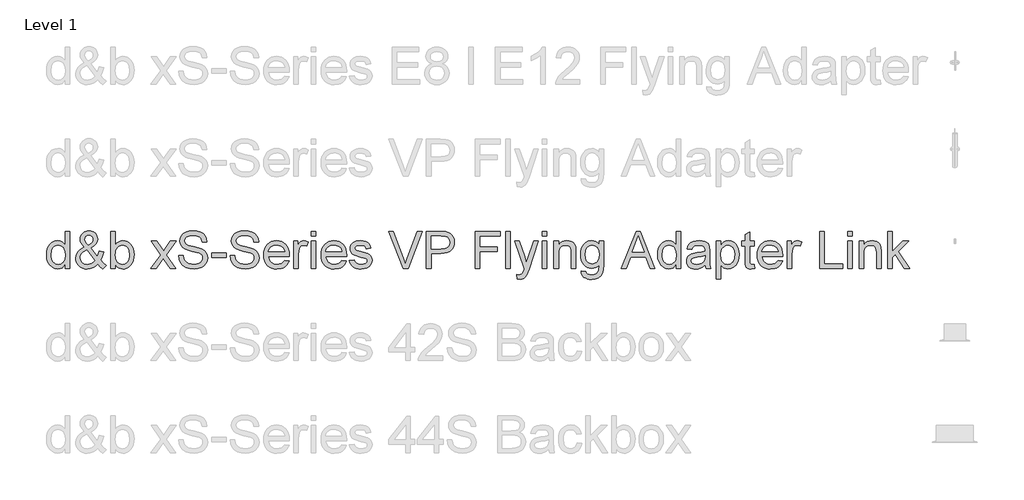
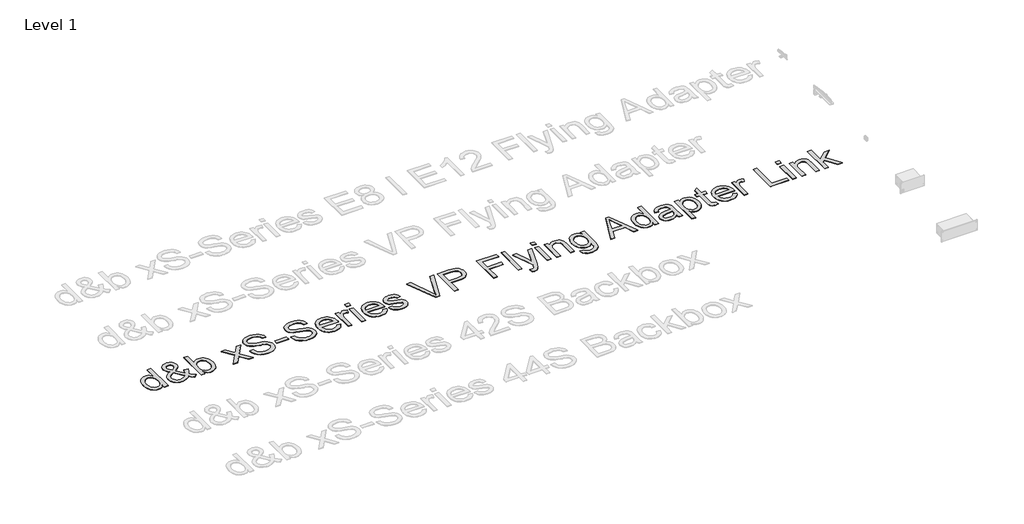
# One storey, part 10 of 55: 1 proxy.
"""IFC4 building model written with IfcOpenShell, lengths in millimetres."""

from ifc_helpers import new_model, si_unit, origin, origin_with_axes, place, context, project, spatial, polyline, outline, extrude, element, save

model = new_model("IFC4")

# Units and contexts
model_context = context("Model", 3, world=origin())
ifc_project = project(units=[si_unit("LENGTHUNIT", "METRE", prefix="MILLI")], contexts=[model_context])

# Site, building, storey
site = spatial("IfcSite", under=ifc_project)
building = spatial("IfcBuilding", under=site)
storey = spatial("IfcBuildingStorey", under=building, Name="Level 1", Elevation=0.0)

# Proxy
placement = place(None, origin())
element("IfcBuildingElementProxy", 1, Name="400mm Arial", ObjectType="400mm Arial", at=placement, inside=storey, context=model_context, shape_type="SweptSolid", body=[
    extrude(outline(polyline([(-20879.8211974, -29148.6945164), (-20879.8211974, -29101.3113154), (-20894.8491769, -29124.7883181), (-20913.0532043, -29141.5576057), (-20934.4332796, -29151.6191783), (-20958.9894028, -29154.9730358), (-20991.4611202, -29150.1169935), (-21021.1859854, -29135.5488665), (-21046.3491139, -29112.2864616), (-21065.1356211, -29081.3475858), (-21076.8342686, -29043.9830379), (-21080.7338177, -29001.4436165), (-21077.1408369, -28959.4314926), (-21066.3618945, -28921.4905962), (-21048.4092531, -28889.7791682), (-21023.2951755, -28866.4554497), (-20992.9203855, -28852.1080519), (-20959.1856065, -28847.325586), (-20934.6110892, -28850.7468885), (-20912.8815261, -28861.0107962), (-20894.4629008, -28876.7438829), (-20879.8211974, -28896.5727224), (-20879.8211974, -28746.8692758), (-20829.5930424, -28746.8692758), (-20829.5930424, -29148.6945164), (-20879.8211974, -29148.6945164)]), holes=[polyline([(-21030.5056627, -29001.2474128), (-21029.089317, -29025.6042665), (-21024.8402799, -29046.6808392), (-21017.7585515, -29064.4771307), (-21007.8441318, -29078.9931411), (-20983.1469871, -29098.3069458), (-20969.2717046, -29103.135397), (-20954.3786151, -29104.7448807), (-20939.415015, -29103.2089734), (-20925.6225058, -29098.6012514), (-20901.5507606, -29080.1703635), (-20892.0440767, -29066.2613584), (-20885.2535882, -29049.1088603), (-20879.8211974, -29005.0733855), (-20885.3516901, -28956.9298951), (-20892.2648059, -28938.3947739), (-20901.9431681, -28923.5507354), (-20913.6448812, -28912.1770504), (-20926.6280499, -28904.0529896), (-20940.8926743, -28899.1785532), (-20956.4387543, -28897.5537411), (-20971.6261493, -28899.1141738), (-20985.5014319, -28903.7954722), (-20998.064602, -28911.5976362), (-21009.3156597, -28922.5206658), (-21018.586286, -28936.8036843), (-21025.2081619, -28954.6858149), (-21030.5056627, -29001.2474128)])]), origin_with_axes(), (0.0, 0.0, 1.0), 5.0),
    extrude(outline(polyline([(-20523.809528, -29099.0549725), (-20549.3405384, -29123.5191252), (-20577.0788409, -29140.99352), (-20607.0734862, -29151.4781569), (-20639.3735254, -29154.9730358), (-20668.6814577, -29152.3855991), (-20694.8010793, -29144.623289), (-20717.7323904, -29131.6861055), (-20737.4753908, -29113.5740486), (-20750.308341, -29096.2038871), (-20759.4747341, -29077.8404442), (-20764.9745699, -29058.4837198), (-20766.8078485, -29038.1337141), (-20760.9094739, -29002.9396699), (-20743.2143499, -28971.3263438), (-20713.796053, -28943.3182613), (-20672.7281596, -28918.9399477), (-20694.6416638, -28890.5885086), (-20707.7995765, -28868.1231814), (-20714.3846642, -28848.9442668), (-20716.5796934, -28830.4520651), (-20714.8506481, -28812.8979626), (-20709.6635119, -28796.5333452), (-20701.018285, -28781.3582129), (-20688.9149674, -28767.3725657), (-20674.1935562, -28755.6555241), (-20657.6940487, -28747.2862088), (-20639.4164449, -28742.2646195), (-20619.3607448, -28740.5907564), (-20600.212487, -28742.1910431), (-20582.8913764, -28746.9919032), (-20567.397413, -28754.9933366), (-20553.7305969, -28766.1953433), (-20542.5715097, -28779.6414302), (-20534.6007332, -28794.3751041), (-20529.8182672, -28810.396365), (-20528.2241119, -28827.7052129), (-20532.9452642, -28855.68877), (-20547.108721, -28881.563137), (-20570.7144823, -28905.3283139), (-20603.7625482, -28926.9843007), (-20531.069066, -29017.5323224), (-20518.6837055, -28991.6579554), (-20509.3885538, -28961.9085647), (-20459.1603987, -28972.7978718), (-20474.6114425, -29019.3226815), (-20494.6732739, -29055.4977443), (-20466.1256311, -29088.8033276), (-20434.0463211, -29116.3209009), (-20471.7174374, -29154.9730358), (-20497.3465498, -29131.52669), (-20523.809528, -29099.0549725)]), holes=[polyline([(-20557.4584678, -29062.8553842), (-20647.1235727, -28950.9211558), (-20681.3733865, -28972.7733463), (-20702.305872, -28993.0068561), (-20713.0112381, -29012.3329235), (-20716.5796934, -29031.4627873), (-20711.6991256, -29055.1543878), (-20697.0574222, -29079.7289051), (-20686.2784798, -29090.6733944), (-20673.4639236, -29098.4908868), (-20658.6137537, -29103.1813823), (-20641.7279702, -29104.7448807), (-20619.0051256, -29101.8263502), (-20595.5710425, -29093.0707588), (-20574.1480476, -29079.6798541), (-20557.4584678, -29062.8553842)]), polyline([(-20629.1709314, -28895.2973981), (-20602.9041569, -28878.6323438), (-20587.8700461, -28864.1500559), (-20580.8067117, -28850.0601755), (-20578.452267, -28834.5723435), (-20581.5547385, -28817.0243723), (-20590.862153, -28803.0325938), (-20604.829406, -28793.8723321), (-20621.9113933, -28790.8189115), (-20639.3612626, -28793.8478066), (-20653.6473468, -28802.9344919), (-20663.1754905, -28816.3867102), (-20666.3515384, -28832.5122043), (-20662.0350563, -28850.9063041), (-20648.9875082, -28871.360543), (-20629.1709314, -28895.2973981)])]), origin_with_axes(), (0.0, 0.0, 1.0), 5.0),
    extrude(outline(polyline([(-20333.590011, -29148.6945164), (-20383.8181661, -29148.6945164), (-20383.8181661, -28746.8692758), (-20333.590011, -28746.8692758), (-20333.590011, -28895.8860093), (-20317.0721094, -28874.6408241), (-20298.4204923, -28859.4656918), (-20277.6351595, -28850.3606124), (-20254.7161112, -28847.325586), (-20228.8417442, -28850.0601755), (-20204.3898543, -28858.263944), (-20182.758393, -28871.4218567), (-20165.3453119, -28889.0188788), (-20151.6968898, -28910.883332), (-20141.3594058, -28936.8435381), (-20134.8478945, -28965.8203766), (-20132.6773907, -28996.734727), (-20134.9245365, -29032.4070178), (-20141.6659741, -29063.7873519), (-20152.9017034, -29090.8757295), (-20168.6317244, -29113.6721505), (-20187.5132678, -29131.7412878), (-20208.2035643, -29144.6478145), (-20230.702614, -29152.3917305), (-20255.0104168, -29154.9730358), (-20278.6836232, -29151.6437038), (-20299.671291, -29141.6557076), (-20317.9734203, -29125.0090473), (-20333.590011, -29101.7037229), (-20333.590011, -29148.6945164)]), holes=[polyline([(-20333.590011, -28999.0891717), (-20330.1564457, -29040.9786682), (-20319.8557498, -29069.3301073), (-20307.6849872, -29084.8240707), (-20293.5399244, -29095.8911874), (-20277.4205617, -29102.5314574), (-20259.3268989, -29104.7448807), (-20244.3050508, -29103.1139372), (-20230.3377977, -29098.2211067), (-20217.4251396, -29090.0663891), (-20205.5670767, -29078.6497845), (-20195.6526569, -29064.0019498), (-20188.5709285, -29046.1535416), (-20184.3218914, -29025.1045601), (-20182.9055458, -29000.8550053), (-20188.3379366, -28954.8942814), (-20195.1284251, -28937.1010555), (-20204.6351089, -28922.7659205), (-20216.0670419, -28911.735592), (-20228.6332778, -28903.8567859), (-20242.3338164, -28899.1295023), (-20257.1686579, -28897.5537411), (-20272.190506, -28899.1846846), (-20286.1577591, -28904.0775151), (-20299.0704171, -28912.2322327), (-20310.9284801, -28923.6488372), (-20320.8428999, -28938.1495192), (-20327.9246283, -28955.556469), (-20332.1736653, -28975.8696865), (-20333.590011, -28999.0891717)])]), origin_with_axes(), (0.0, 0.0, 1.0), 5.0),
    extrude(outline(polyline([(-19950.6003285, -29148.6945164), (-19843.2768878, -29000.2663941), (-19944.3218092, -28853.6041054), (-19884.0872638, -28853.6041054), (-19835.3306367, -28924.3355503), (-19812.4729021, -28957.5920827), (-19792.6563253, -28930.3197641), (-19737.1306695, -28853.6041054), (-19676.6999204, -28853.6041054), (-19782.8461387, -29000.364496), (-19680.623995, -29148.6945164), (-19740.9566422, -29148.6945164), (-19802.5646137, -29059.4218189), (-19813.7482263, -29043.0388074), (-19890.1695795, -29148.6945164), (-19950.6003285, -29148.6945164)])), origin_with_axes(), (0.0, 0.0, 1.0), 5.0),
    extrude(outline(polyline([(-19649.2313981, -29010.56709), (-19599.003243, -29010.56709), (-19593.2397584, -29038.4402825), (-19582.8164352, -29060.844296), (-19566.556051, -29078.6252591), (-19543.2813835, -29092.6293004), (-19514.8318425, -29101.7159856), (-19483.0468381, -29104.7448807), (-19455.063281, -29102.4517496), (-19430.5623402, -29095.5723563), (-19410.7089752, -29084.6830493), (-19396.6681457, -29070.3601769), (-19388.3172244, -29053.9158517), (-19385.533584, -29036.6621862), (-19387.6182486, -29019.849979), (-19393.8722425, -29005.3186402), (-19406.5764341, -28992.9210169), (-19428.0116917, -28982.5099565), (-19501.1466323, -28963.3310418), (-19549.1552327, -28950.639113), (-19579.8733793, -28938.5603208), (-19604.8770922, -28921.6622745), (-19622.5967416, -28901.1835101), (-19633.1549549, -28877.565486), (-19636.6743593, -28851.2496606), (-19632.3210891, -28821.8313637), (-19619.2612782, -28794.3996296), (-19597.8382834, -28771.1494875), (-19568.395461, -28754.2759667), (-19533.054264, -28744.012059), (-19493.9361452, -28740.5907564), (-19451.5561394, -28744.1714745), (-19414.4736342, -28754.9136288), (-19384.013005, -28772.59649), (-19361.4986269, -28796.999329), (-19347.249331, -28826.6015669), (-19341.5839483, -28859.8826247), (-19391.8121033, -28859.8826247), (-19401.0336787, -28829.9125049), (-19409.3968627, -28818.0544419), (-19420.2616443, -28808.2810436), (-19450.3053406, -28795.1844445), (-19491.9741079, -28790.8189115), (-19534.6238939, -28795.1353936), (-19550.9271976, -28800.5309962), (-19563.8827752, -28808.0848398), (-19580.805347, -28827.1411272), (-19586.4462043, -28849.7781326), (-19582.4485532, -28869.0796746), (-19570.4556002, -28884.6042948), (-19542.1041611, -28898.4857088), (-19488.4424407, -28912.6614283), (-19433.0639377, -28926.1259093), (-19399.5621507, -28937.8736077), (-19370.9286687, -28956.0960292), (-19350.9526764, -28978.5858819), (-19339.2172408, -29005.097911), (-19335.3054289, -29035.3868619), (-19339.805852, -29066.3502632), (-19353.3071212, -29095.4742545), (-19375.2574136, -29120.5392811), (-19405.1049061, -29139.3257883), (-19440.9979261, -29151.0612239), (-19481.0848008, -29154.9730358), (-19530.2951491, -29150.7546556), (-19570.7989567, -29138.099515), (-19603.0622077, -29116.958563), (-19627.5508858, -29087.2827487), (-19643.2717098, -29051.1322113), (-19649.2313981, -29010.56709)])), origin_with_axes(), (0.0, 0.0, 1.0), 5.0),
    extrude(outline(polyline([(-19291.3557932, -29029.4026481), (-19291.3557932, -28979.174493), (-19134.3928086, -28979.174493), (-19134.3928086, -29029.4026481), (-19291.3557932, -29029.4026481)])), origin_with_axes(), (0.0, 0.0, 1.0), 5.0),
    extrude(outline(polyline([(-19090.4431729, -29010.56709), (-19040.2150178, -29010.56709), (-19034.4515332, -29038.4402825), (-19024.02821, -29060.844296), (-19007.7678258, -29078.6252591), (-18984.4931583, -29092.6293004), (-18956.0436173, -29101.7159856), (-18924.2586129, -29104.7448807), (-18896.2750558, -29102.4517496), (-18871.774115, -29095.5723563), (-18851.9207499, -29084.6830493), (-18837.8799205, -29070.3601769), (-18829.5289992, -29053.9158517), (-18826.7453587, -29036.6621862), (-18828.8300234, -29019.849979), (-18835.0840173, -29005.3186402), (-18847.7882089, -28992.9210169), (-18869.2234665, -28982.5099565), (-18942.3584071, -28963.3310418), (-18990.3670075, -28950.639113), (-19021.0851541, -28938.5603208), (-19046.088867, -28921.6622745), (-19063.8085164, -28901.1835101), (-19074.3667297, -28877.565486), (-19077.8861341, -28851.2496606), (-19073.5328638, -28821.8313637), (-19060.473053, -28794.3996296), (-19039.0500582, -28771.1494875), (-19009.6072358, -28754.2759667), (-18974.2660388, -28744.012059), (-18935.14792, -28740.5907564), (-18892.7679141, -28744.1714745), (-18855.685409, -28754.9136288), (-18825.2247798, -28772.59649), (-18802.7104017, -28796.999329), (-18788.4611058, -28826.6015669), (-18782.7957231, -28859.8826247), (-18833.0238781, -28859.8826247), (-18842.2454535, -28829.9125049), (-18850.6086375, -28818.0544419), (-18861.4734191, -28808.2810436), (-18891.5171154, -28795.1844445), (-18933.1858827, -28790.8189115), (-18975.8356687, -28795.1353936), (-18992.1389724, -28800.5309962), (-19005.09455, -28808.0848398), (-19022.0171218, -28827.1411272), (-19027.657979, -28849.7781326), (-19023.660328, -28869.0796746), (-19011.667375, -28884.6042948), (-18983.3159359, -28898.4857088), (-18929.6542155, -28912.6614283), (-18874.2757125, -28926.1259093), (-18840.7739255, -28937.8736077), (-18812.1404435, -28956.0960292), (-18792.1644512, -28978.5858819), (-18780.4290156, -29005.097911), (-18776.5172037, -29035.3868619), (-18781.0176267, -29066.3502632), (-18794.518896, -29095.4742545), (-18816.4691883, -29120.5392811), (-18846.3166809, -29139.3257883), (-18882.2097009, -29151.0612239), (-18922.2965756, -29154.9730358), (-18971.5069238, -29150.7546556), (-19012.0107315, -29138.099515), (-19044.2739825, -29116.958563), (-19068.7626606, -29087.2827487), (-19084.4834846, -29051.1322113), (-19090.4431729, -29010.56709)])), origin_with_axes(), (0.0, 0.0, 1.0), 5.0),
    extrude(outline(polyline([(-18500.850962, -29060.795245), (-18451.6038255, -29067.0737644), (-18459.1546035, -29086.7983707), (-18469.3480004, -29104.180795), (-18482.1840164, -29119.2210372), (-18497.6626513, -29131.9190974), (-18515.6244897, -29142.0051955), (-18535.9101161, -29149.2095512), (-18583.4527326, -29154.9730358), (-18614.618469, -29152.4867667), (-18642.3874282, -29145.0279592), (-18666.7596104, -29132.5966135), (-18687.7350155, -29115.1927294), (-18704.602405, -29093.300685), (-18716.6505403, -29067.4048582), (-18723.8794215, -29037.5052491), (-18726.2890486, -29003.6018575), (-18723.8548961, -28968.5488348), (-18716.5524385, -28937.6528785), (-18704.3816758, -28910.9139888), (-18687.342608, -28888.3321657), (-18666.4223852, -28870.3917871), (-18642.6081574, -28857.5772309), (-18615.8999246, -28849.8884972), (-18586.2976867, -28847.325586), (-18557.6488763, -28849.8823658), (-18531.7407868, -28857.5527054), (-18508.5734182, -28870.3366048), (-18488.1467704, -28888.2340638), (-18471.472519, -28910.766836), (-18459.5623394, -28937.4566748), (-18452.4162316, -28968.3035801), (-18450.0341957, -29003.3075519), (-18450.3285013, -29016.8456094), (-18676.0608935, -29016.8456094), (-18673.1515601, -29036.8890467), (-18667.3666157, -29054.4431493), (-18658.7060604, -29069.507917), (-18647.1698942, -29082.0833498), (-18633.3957791, -29091.9977696), (-18618.0213774, -29099.079498), (-18582.4717139, -29104.7448807), (-18555.7389556, -29102.1206558), (-18533.2245775, -29094.2479811), (-18514.9285796, -29080.6363473), (-18500.850962, -29060.795245)]), holes=[polyline([(-18676.0608935, -28966.6174543), (-18500.2623508, -28966.6174543), (-18507.0559049, -28940.0808997), (-18520.3732332, -28921.0981887), (-18534.0707061, -28910.7974929), (-18549.65664, -28903.439853), (-18567.1310348, -28899.025269), (-18586.4938904, -28897.5537411), (-18620.3512967, -28902.2503679), (-18648.3471166, -28916.3402483), (-18667.8080741, -28938.3028034), (-18676.0608935, -28966.6174543)])]), origin_with_axes(), (0.0, 0.0, 1.0), 5.0),
    extrude(outline(polyline([(-18399.8060406, -29148.6945164), (-18399.8060406, -28853.6041054), (-18355.8564049, -28853.6041054), (-18355.8564049, -28897.2594355), (-18339.6205462, -28871.9491542), (-18324.6600117, -28857.0376707), (-18309.6504263, -28849.7536071), (-18293.2674148, -28847.325586), (-18268.2514391, -28851.2006097), (-18242.843056, -28862.8256807), (-18259.618475, -28907.8544369), (-18277.2768108, -28900.128915), (-18294.9351465, -28897.5537411), (-18309.9324692, -28900.0308132), (-18323.3356365, -28907.4620295), (-18334.1636299, -28919.2833042), (-18341.4354307, -28934.9305518), (-18347.5422718, -28962.9876853), (-18349.5778855, -28993.5954673), (-18349.5778855, -29148.6945164), (-18399.8060406, -29148.6945164)])), origin_with_axes(), (0.0, 0.0, 1.0), 5.0),
    extrude(outline(polyline([(-18211.4504591, -28797.0974309), (-18211.4504591, -28746.8692758), (-18161.222304, -28746.8692758), (-18161.222304, -28797.0974309), (-18211.4504591, -28797.0974309)])), origin_with_axes(), (0.0, 0.0, 1.0), 5.0),
    extrude(outline(polyline([(-18211.4504591, -29148.6945164), (-18211.4504591, -28853.6041054), (-18161.222304, -28853.6041054), (-18161.222304, -29148.6945164), (-18211.4504591, -29148.6945164)])), origin_with_axes(), (0.0, 0.0, 1.0), 5.0),
    extrude(outline(polyline([(-17879.2775429, -29060.795245), (-17830.0304065, -29067.0737644), (-17837.5811844, -29086.7983707), (-17847.7745814, -29104.180795), (-17860.6105973, -29119.2210372), (-17876.0892323, -29131.9190974), (-17894.0510707, -29142.0051955), (-17914.336697, -29149.2095512), (-17961.8793136, -29154.9730358), (-17993.0450499, -29152.4867667), (-18020.8140092, -29145.0279592), (-18045.1861914, -29132.5966135), (-18066.1615965, -29115.1927294), (-18083.0289859, -29093.300685), (-18095.0771213, -29067.4048582), (-18102.3060025, -29037.5052491), (-18104.7156295, -29003.6018575), (-18102.281477, -28968.5488348), (-18094.9790194, -28937.6528785), (-18082.8082567, -28910.9139888), (-18065.769189, -28888.3321657), (-18044.8489662, -28870.3917871), (-18021.0347384, -28857.5772309), (-17994.3265055, -28849.8884972), (-17964.7242676, -28847.325586), (-17936.0754573, -28849.8823658), (-17910.1673678, -28857.5527054), (-17886.9999991, -28870.3366048), (-17866.5733513, -28888.2340638), (-17849.8990999, -28910.766836), (-17837.9889203, -28937.4566748), (-17830.8428126, -28968.3035801), (-17828.4607766, -29003.3075519), (-17828.7550822, -29016.8456094), (-18054.4874745, -29016.8456094), (-18051.578141, -29036.8890467), (-18045.7931967, -29054.4431493), (-18037.1326413, -29069.507917), (-18025.5964751, -29082.0833498), (-18011.8223601, -29091.9977696), (-17996.4479584, -29099.079498), (-17960.8982949, -29104.7448807), (-17934.1655366, -29102.1206558), (-17911.6511585, -29094.2479811), (-17893.3551606, -29080.6363473), (-17879.2775429, -29060.795245)]), holes=[polyline([(-18054.4874745, -28966.6174543), (-17878.6889317, -28966.6174543), (-17885.4824859, -28940.0808997), (-17898.7998141, -28921.0981887), (-17912.4972871, -28910.7974929), (-17928.0832209, -28903.439853), (-17945.5576157, -28899.025269), (-17964.9204714, -28897.5537411), (-17998.7778777, -28902.2503679), (-18026.7736975, -28916.3402483), (-18046.234655, -28938.3028034), (-18054.4874745, -28966.6174543)])]), origin_with_axes(), (0.0, 0.0, 1.0), 5.0),
    extrude(outline(polyline([(-17797.0681797, -29060.795245), (-17746.8400246, -29054.5167257), (-17738.918299, -29076.0010342), (-17723.5898825, -29091.7954345), (-17700.7566734, -29101.5075192), (-17670.3205696, -29104.7448807), (-17640.2523479, -29101.7772993), (-17619.1113959, -29092.874555), (-17606.6034081, -29079.9741597), (-17602.4340788, -29065.0136253), (-17606.6279335, -29052.2113318), (-17619.2094978, -29042.4501962), (-17670.9091808, -29028.1273239), (-17746.545719, -29003.5528066), (-17765.6878455, -28991.2042343), (-17779.5569967, -28974.858011), (-17787.9814944, -28955.556469), (-17790.7896603, -28934.3419406), (-17788.5333174, -28914.880983), (-17781.7642887, -28896.9160789), (-17771.0957109, -28881.1584668), (-17757.1407205, -28868.3193852), (-17725.2085633, -28853.4569526), (-17704.3251287, -28848.8584276), (-17681.9946916, -28847.325586), (-17649.302245, -28849.7903953), (-17620.8772295, -28857.1848234), (-17598.0194949, -28868.785369), (-17582.0288908, -28883.8685308), (-17571.4338893, -28903.5502176), (-17564.7629625, -28928.946338), (-17614.9911176, -28935.2248574), (-17621.3309506, -28919.4181943), (-17633.8757267, -28907.5110804), (-17652.748073, -28900.0430759), (-17678.070617, -28897.5537411), (-17706.9125654, -28899.9327113), (-17726.140531, -28907.069622), (-17736.9562617, -28917.3703179), (-17740.5615053, -28929.2406436), (-17734.5772915, -28943.8578215), (-17715.8398352, -28954.9433323), (-17672.5769125, -28965.6364356), (-17598.8533607, -28989.2789852), (-17579.3801404, -29000.5852252), (-17564.6158097, -29016.0607944), (-17555.3083952, -29035.7547439), (-17552.2059237, -29059.7161245), (-17555.8479555, -29084.4868455), (-17566.7740507, -29107.7860386), (-17584.5672766, -29127.7865564), (-17608.8107, -29142.6612517), (-17638.0941069, -29151.8950898), (-17671.0072827, -29154.9730358), (-17698.040478, -29153.4892451), (-17721.6523707, -29149.037873), (-17741.8429609, -29141.6189194), (-17758.6122485, -29131.2323844), (-17772.3097214, -29117.9273189), (-17783.2848676, -29101.7527738), (-17791.5376871, -29082.7087492), (-17797.0681797, -29060.795245)])), origin_with_axes(), (0.0, 0.0, 1.0), 5.0),
    extrude(outline(polyline([(-17213.85259, -29148.6945164), (-17373.6605287, -28746.8692758), (-17319.9007065, -28746.8692758), (-17212.8715714, -29036.3678806), (-17191.1910591, -29101.605621), (-17169.8048525, -29036.3678806), (-17062.4814117, -28746.8692758), (-17008.8196914, -28746.8692758), (-17162.0548051, -29148.6945164), (-17213.85259, -29148.6945164)])), origin_with_axes(), (0.0, 0.0, 1.0), 5.0),
    extrude(outline(polyline([(-16962.0251016, -29148.6945164), (-16962.0251016, -28746.8692758), (-16813.1064699, -28746.8692758), (-16753.0681283, -28750.6952486), (-16726.2985818, -28757.844422), (-16704.2624503, -28769.4817558), (-16686.5182754, -28786.1345474), (-16672.6245987, -28808.3300945), (-16663.648278, -28834.5110298), (-16660.6561711, -28863.1199863), (-16662.6764564, -28887.7864741), (-16668.7373123, -28910.4786618), (-16678.8387388, -28931.1965495), (-16692.9807358, -28949.9401372), (-16712.3957081, -28965.4770201), (-16738.3160603, -28976.5747936), (-16770.7417925, -28983.2334577), (-16809.6729047, -28985.4530124), (-16911.7969465, -28985.4530124), (-16911.7969465, -29148.6945164), (-16962.0251016, -29148.6945164)]), holes=[polyline([(-16911.7969465, -28935.2248574), (-16806.7298487, -28935.2248574), (-16762.1916018, -28930.6140697), (-16745.5878611, -28924.8505851), (-16732.7610422, -28916.7817067), (-16723.189979, -28906.6220322), (-16716.3535052, -28894.5861596), (-16710.8843262, -28864.8858199), (-16714.109425, -28842.3223908), (-16723.7847215, -28823.290629), (-16738.7084678, -28808.9677566), (-16757.678916, -28800.5309962), (-16807.9070711, -28797.0974309), (-16911.7969465, -28797.0974309), (-16911.7969465, -28935.2248574)])]), origin_with_axes(), (0.0, 0.0, 1.0), 5.0),
    extrude(outline(polyline([(-16434.6294733, -29148.6945164), (-16434.6294733, -28746.8692758), (-16164.6531398, -28746.8692758), (-16164.6531398, -28797.0974309), (-16384.4013182, -28797.0974309), (-16384.4013182, -28916.3892992), (-16196.0457367, -28916.3892992), (-16196.0457367, -28966.6174543), (-16384.4013182, -28966.6174543), (-16384.4013182, -29148.6945164), (-16434.6294733, -29148.6945164)])), origin_with_axes(), (0.0, 0.0, 1.0), 5.0),
    extrude(outline(polyline([(-16101.8679459, -29148.6945164), (-16101.8679459, -28746.8692758), (-16051.6397909, -28746.8692758), (-16051.6397909, -29148.6945164), (-16101.8679459, -29148.6945164)])), origin_with_axes(), (0.0, 0.0, 1.0), 5.0),
    extrude(outline(polyline([(-15976.2975583, -29261.7078653), (-15982.5760776, -29213.3436457), (-15957.0695926, -29217.7582297), (-15943.6541625, -29216.3725408), (-15933.2308393, -29212.2154743), (-15918.6136614, -29196.7644305), (-15904.8794003, -29159.7800272), (-15900.9553256, -29147.6153959), (-16007.6901552, -28853.6041054), (-15954.8132497, -28853.6041054), (-15898.1103715, -29017.5323224), (-15878.3918966, -29083.0643685), (-15858.6734217, -29025.086166), (-15800.4990155, -28853.6041054), (-15748.0145175, -28853.6041054), (-15850.7271706, -29155.7578507), (-15877.4108779, -29221.2898968), (-15891.0715627, -29242.2101196), (-15906.547132, -29256.7046702), (-15924.4997733, -29265.1659561), (-15945.5916744, -29267.9863847), (-15976.2975583, -29261.7078653)])), origin_with_axes(), (0.0, 0.0, 1.0), 5.0),
    extrude(outline(polyline([(-15706.3212247, -28797.0974309), (-15706.3212247, -28746.8692758), (-15656.0930696, -28746.8692758), (-15656.0930696, -28797.0974309), (-15706.3212247, -28797.0974309)])), origin_with_axes(), (0.0, 0.0, 1.0), 5.0),
    extrude(outline(polyline([(-15706.3212247, -29148.6945164), (-15706.3212247, -28853.6041054), (-15656.0930696, -28853.6041054), (-15656.0930696, -29148.6945164), (-15706.3212247, -29148.6945164)])), origin_with_axes(), (0.0, 0.0, 1.0), 5.0),
    extrude(outline(polyline([(-15580.750837, -29148.6945164), (-15580.750837, -28853.6041054), (-15530.522682, -28853.6041054), (-15530.522682, -28894.8068888), (-15513.0728127, -28874.0338188), (-15492.1158017, -28859.1959117), (-15467.651649, -28850.2931674), (-15439.6803546, -28847.325586), (-15414.9218963, -28849.7168189), (-15392.2481027, -28856.8905179), (-15373.3389682, -28867.9515032), (-15359.8744871, -28882.0045954), (-15350.7387509, -28899.0130063), (-15344.8158508, -28918.9399477), (-15342.1671004, -28967.5003711), (-15342.1671004, -29148.6945164), (-15392.3952555, -29148.6945164), (-15392.3952555, -28974.2693998), (-15393.842258, -28948.2969309), (-15398.1832656, -28929.8292548), (-15406.1908303, -28916.5977657), (-15418.6375045, -28906.333858), (-15434.5913204, -28899.7487703), (-15453.1203102, -28897.5537411), (-15482.5386071, -28902.4833598), (-15507.6158964, -28917.272216), (-15517.6376151, -28929.3448768), (-15524.7959856, -28945.8443843), (-15529.0910079, -28966.7707384), (-15530.522682, -28992.1239393), (-15530.522682, -29148.6945164), (-15580.750837, -29148.6945164)])), origin_with_axes(), (0.0, 0.0, 1.0), 5.0),
    extrude(outline(polyline([(-15285.660426, -29173.808594), (-15235.4322709, -29180.0871133), (-15229.8895155, -29195.7834118), (-15219.1473612, -29206.574617), (-15198.0309347, -29214.9623265), (-15170.3907342, -29217.7582297), (-15140.9111236, -29214.5944445), (-15118.9853567, -29205.103089), (-15103.7795676, -29189.8972999), (-15094.4598903, -29169.5902138), (-15091.0263251, -29111.0234001), (-15107.7404304, -29127.5045135), (-15126.3920475, -29139.2767374), (-15146.9811765, -29146.3400717), (-15169.5078174, -29148.6945164), (-15197.0468504, -29145.9537956), (-15221.2933395, -29137.731633), (-15242.2472849, -29124.0280287), (-15259.9086863, -29104.8429826), (-15273.9219246, -29081.8258324), (-15283.9313806, -29056.6259158), (-15289.9370542, -29029.2432326), (-15291.9389454, -28999.6777829), (-15288.3459645, -28959.1249243), (-15277.5670221, -28921.8339527), (-15259.9822627, -28890.2328893), (-15235.9718312, -28866.7497553), (-15206.3573305, -28852.1816283), (-15171.960364, -28847.325586), (-15148.4710986, -28850.0724382), (-15127.152337, -28858.3129949), (-15108.0040791, -28872.0472561), (-15091.0263251, -28891.2752217), (-15091.0263251, -28853.6041054), (-15040.79817, -28853.6041054), (-15040.79817, -29108.3746498), (-15044.2317353, -29167.1989808), (-15054.5324311, -29205.9369549), (-15072.276606, -29231.6273809), (-15098.0406084, -29251.3090676), (-15131.2603526, -29263.8170555), (-15171.3717528, -29267.9863847), (-15195.9799926, -29266.5179224), (-15218.1050289, -29262.1125355), (-15237.7468618, -29254.7702241), (-15254.9054912, -29244.490988), (-15268.7654453, -29231.2625646), (-15278.5112525, -29215.0726911), (-15284.1429127, -29195.9213676), (-15285.660426, -29173.808594)]), holes=[polyline([(-15241.7107903, -28996.2442176), (-15236.3519759, -29042.3153062), (-15229.6534579, -29059.9521821), (-15220.2755327, -29073.9899459), (-15208.8742565, -29084.6983777), (-15196.1056856, -29092.3472575), (-15181.9698199, -29096.9365854), (-15166.4666595, -29098.4663614), (-15151.1167833, -29096.9457824), (-15137.0483627, -29092.3840457), (-15124.2613976, -29084.7811511), (-15112.7558882, -29074.1370987), (-15103.2492043, -29060.2372907), (-15096.4587159, -29042.8671291), (-15091.0263251, -28997.7157456), (-15096.6181314, -28954.1707801), (-15103.6078893, -28936.9692312), (-15113.3935504, -28922.8149714), (-15125.1473801, -28911.7631831), (-15138.041644, -28903.8690486), (-15152.0763422, -28899.1325679), (-15167.2514745, -28897.5537411), (-15182.172155, -28899.1080425), (-15195.9340073, -28903.7709468), (-15219.9812271, -28922.4225639), (-15229.487911, -28936.3622259), (-15236.2783995, -28953.3123888), (-15241.7107903, -28996.2442176)])]), origin_with_axes(), (0.0, 0.0, 1.0), 5.0),
    extrude(outline(polyline([(-14848.9109213, -29148.6945164), (-14688.5143714, -28746.8692758), (-14645.7419581, -28746.8692758), (-14485.4435101, -29148.6945164), (-14538.5166192, -29148.6945164), (-14584.4282922, -29023.1241287), (-14750.024241, -29023.1241287), (-14795.935914, -29148.6945164), (-14848.9109213, -29148.6945164)]), holes=[polyline([(-14731.5810903, -28972.8959737), (-14602.7733411, -28972.8959737), (-14639.0710312, -28874.1073952), (-14667.2262666, -28797.0974309), (-14692.2422423, -28865.4744311), (-14731.5810903, -28972.8959737)])]), origin_with_axes(), (0.0, 0.0, 1.0), 5.0),
    extrude(outline(polyline([(-14255.9832469, -29148.6945164), (-14255.9832469, -29101.3113154), (-14271.0112264, -29124.7883181), (-14289.2152538, -29141.5576057), (-14310.5953291, -29151.6191783), (-14335.1514523, -29154.9730358), (-14367.6231697, -29150.1169935), (-14397.348035, -29135.5488665), (-14422.5111634, -29112.2864616), (-14441.2976706, -29081.3475858), (-14452.9963181, -29043.9830379), (-14456.8958672, -29001.4436165), (-14453.3028864, -28959.4314926), (-14442.523944, -28921.4905962), (-14424.5713026, -28889.7791682), (-14399.4572251, -28866.4554497), (-14369.082435, -28852.1080519), (-14335.347656, -28847.325586), (-14310.7731388, -28850.7468885), (-14289.0435756, -28861.0107962), (-14270.6249503, -28876.7438829), (-14255.9832469, -28896.5727224), (-14255.9832469, -28746.8692758), (-14205.7550919, -28746.8692758), (-14205.7550919, -29148.6945164), (-14255.9832469, -29148.6945164)]), holes=[polyline([(-14406.6677122, -29001.2474128), (-14405.2513665, -29025.6042665), (-14401.0023294, -29046.6808392), (-14393.920601, -29064.4771307), (-14384.0061813, -29078.9931411), (-14359.3090367, -29098.3069458), (-14345.4337541, -29103.135397), (-14330.5406646, -29104.7448807), (-14315.5770645, -29103.2089734), (-14301.7845553, -29098.6012514), (-14277.7128101, -29080.1703635), (-14268.2061262, -29066.2613584), (-14261.4156377, -29049.1088603), (-14255.9832469, -29005.0733855), (-14261.5137396, -28956.9298951), (-14268.4268554, -28938.3947739), (-14278.1052176, -28923.5507354), (-14289.8069307, -28912.1770504), (-14302.7900995, -28904.0529896), (-14317.0547238, -28899.1785532), (-14332.6008038, -28897.5537411), (-14347.7881988, -28899.1141738), (-14361.6634814, -28903.7954722), (-14374.2266516, -28911.5976362), (-14385.4777092, -28922.5206658), (-14394.7483355, -28936.8036843), (-14401.3702114, -28954.6858149), (-14406.6677122, -29001.2474128)])]), origin_with_axes(), (0.0, 0.0, 1.0), 5.0),
    extrude(outline(polyline([(-13942.0572777, -29111.0234001), (-13966.0554465, -29131.6002664), (-13990.7648539, -29145.0647474), (-14016.7495855, -29152.4959637), (-14044.573727, -29154.9730358), (-14066.9378867, -29153.4831137), (-14086.5490627, -29149.0133475), (-14103.4072551, -29141.5637371), (-14117.512464, -29131.1342825), (-14128.6500914, -29118.3871714), (-14136.6055395, -29103.9845913), (-14141.3788084, -29087.9265422), (-14142.969898, -29070.2130241), (-14140.5664023, -29049.3909032), (-14133.3559152, -29030.4817686), (-14122.2336162, -29014.2949609), (-14108.0946849, -29001.6398202), (-14091.4786814, -28992.0748883), (-14072.9251661, -28985.1587068), (-14029.4660398, -28977.6048632), (-13978.1097132, -28969.6586121), (-13942.3515833, -28960.3389349), (-13942.0572777, -28949.1553222), (-13945.5153685, -28926.739046), (-13955.8896407, -28912.0728171), (-13979.0907319, -28901.1835101), (-14011.4152965, -28897.5537411), (-14041.3363655, -28899.9694995), (-14062.2320628, -28907.2167748), (-14076.4813588, -28920.6199422), (-14086.4632236, -28941.5033767), (-14136.6913786, -28935.2248574), (-14127.9725754, -28907.7563351), (-14114.9618155, -28886.1739247), (-14096.4450884, -28869.6682858), (-14071.2083835, -28857.4300781), (-14040.3430841, -28849.851709), (-14004.9405734, -28847.325586), (-13970.9850653, -28849.5574034), (-13944.068366, -28856.2528557), (-13923.7735426, -28866.3205597), (-13909.6836621, -28878.669132), (-13900.3394595, -28893.9362348), (-13894.2816693, -28912.7595302), (-13891.8291226, -28956.7091659), (-13891.8291226, -29019.2000541), (-13889.2784741, -29106.4616634), (-13879.2720839, -29148.6945164), (-13929.500239, -29148.6945164), (-13937.5445919, -29131.2323844), (-13942.0572777, -29111.0234001)]), holes=[polyline([(-13942.0572777, -29010.56709), (-13975.8043194, -29018.930274), (-14023.0894185, -29025.9690828), (-14066.3032902, -29034.1115377), (-14077.5482165, -29039.6788185), (-14085.8746124, -29047.3552895), (-14091.0249603, -29056.5523394), (-14092.7417429, -29066.681357), (-14089.0016093, -29081.617366), (-14077.7812085, -29093.8555737), (-14059.3257951, -29102.022554), (-14033.8806237, -29104.7448807), (-14006.9026107, -29101.7405111), (-13983.0638575, -29092.7274022), (-13963.73779, -29079.4468622), (-13950.2978344, -29063.6401991), (-13944.3381461, -29047.3552895), (-13942.3515833, -29024.7918605), (-13942.0572777, -29010.56709)])]), origin_with_axes(), (0.0, 0.0, 1.0), 5.0),
    extrude(outline(polyline([(-13822.7654094, -29261.7078653), (-13822.7654094, -28853.6041054), (-13772.5372543, -28853.6041054), (-13772.5372543, -28902.8512418), (-13756.1542428, -28878.5587674), (-13737.809194, -28861.2069999), (-13716.4229873, -28850.7959395), (-13690.9165023, -28847.325586), (-13656.9487315, -28852.1816283), (-13627.2483917, -28866.7497553), (-13603.0662819, -28890.1470502), (-13585.6532008, -28921.4905962), (-13575.1317757, -28958.4995249), (-13571.624634, -28998.892968), (-13575.5854969, -29041.8493223), (-13587.4680853, -29080.2684653), (-13606.8922546, -29112.2006225), (-13633.4778602, -29135.6960193), (-13664.4412614, -29150.1537817), (-13696.998818, -29154.9730358), (-13720.0895446, -29151.747937), (-13740.703199, -29142.0726405), (-13758.3492721, -29127.4677253), (-13772.5372543, -29109.4537703), (-13772.5372543, -29261.7078653), (-13822.7654094, -29261.7078653)]), holes=[polyline([(-13772.5372543, -29003.5037557), (-13767.1048635, -29048.5325119), (-13760.3143751, -29065.9701184), (-13750.8076912, -29080.0232107), (-13726.7604714, -29098.5644632), (-13712.9986191, -29103.1997764), (-13698.0779385, -29104.7448807), (-13682.9426601, -29103.1445941), (-13668.9294218, -29098.343734), (-13656.0382235, -29090.3423006), (-13644.2690654, -29079.1402939), (-13634.4619445, -29064.5782982), (-13627.4568582, -29046.4968982), (-13623.2538064, -29024.8960937), (-13621.8527891, -28999.7758848), (-13627.3219681, -28954.9923832), (-13634.1584419, -28937.4198866), (-13643.7295051, -28923.0602261), (-13667.7399367, -28903.9303623), (-13681.3454391, -28899.1478964), (-13696.0177993, -28897.5537411), (-13710.6441743, -28899.2490639), (-13724.4060266, -28904.3350325), (-13749.3361632, -28924.6789068), (-13759.4866406, -28939.777397), (-13766.7369816, -28957.9477019), (-13771.0871861, -28979.1898215), (-13772.5372543, -29003.5037557)])]), origin_with_axes(), (0.0, 0.0, 1.0), 5.0),
    extrude(outline(polyline([(-13408.3831301, -29106.8050199), (-13402.1046107, -29150.1660444), (-13439.6776251, -29154.9730358), (-13463.7861585, -29152.8883712), (-13481.7633254, -29146.6343773), (-13494.4675169, -29136.995869), (-13502.7571245, -29124.7576613), (-13507.3188613, -29103.7393366), (-13508.8394402, -29067.7604775), (-13508.8394402, -28903.8322604), (-13546.5105565, -28903.8322604), (-13546.5105565, -28853.6041054), (-13508.8394402, -28853.6041054), (-13508.8394402, -28781.8916418), (-13458.6112851, -28752.3629803), (-13458.6112851, -28853.6041054), (-13408.3831301, -28853.6041054), (-13408.3831301, -28903.8322604), (-13458.6112851, -28903.8322604), (-13458.6112851, -29066.2889495), (-13455.9625348, -29092.187842), (-13447.3786215, -29101.3603664), (-13430.259846, -29104.7448807), (-13408.3831301, -29106.8050199)])), origin_with_axes(), (0.0, 0.0, 1.0), 5.0),
    extrude(outline(polyline([(-13151.5524465, -29060.795245), (-13102.3053101, -29067.0737644), (-13109.856088, -29086.7983707), (-13120.049485, -29104.180795), (-13132.8855009, -29119.2210372), (-13148.3641359, -29131.9190974), (-13166.3259743, -29142.0051955), (-13186.6116006, -29149.2095512), (-13234.1542171, -29154.9730358), (-13265.3199535, -29152.4867667), (-13293.0889128, -29145.0279592), (-13317.4610949, -29132.5966135), (-13338.4365, -29115.1927294), (-13355.3038895, -29093.300685), (-13367.3520249, -29067.4048582), (-13374.5809061, -29037.5052491), (-13376.9905331, -29003.6018575), (-13374.5563806, -28968.5488348), (-13367.253923, -28937.6528785), (-13355.0831603, -28910.9139888), (-13338.0440926, -28888.3321657), (-13317.1238698, -28870.3917871), (-13293.309642, -28857.5772309), (-13266.6014091, -28849.8884972), (-13236.9991712, -28847.325586), (-13208.3503609, -28849.8823658), (-13182.4422713, -28857.5527054), (-13159.2749027, -28870.3366048), (-13138.8482549, -28888.2340638), (-13122.1740035, -28910.766836), (-13110.2638239, -28937.4566748), (-13103.1177161, -28968.3035801), (-13100.7356802, -29003.3075519), (-13101.0299858, -29016.8456094), (-13326.7623781, -29016.8456094), (-13323.8530446, -29036.8890467), (-13318.0681002, -29054.4431493), (-13309.4075449, -29069.507917), (-13297.8713787, -29082.0833498), (-13284.0972637, -29091.9977696), (-13268.7228619, -29099.079498), (-13233.1731985, -29104.7448807), (-13206.4404402, -29102.1206558), (-13183.9260621, -29094.2479811), (-13165.6300642, -29080.6363473), (-13151.5524465, -29060.795245)]), holes=[polyline([(-13326.7623781, -28966.6174543), (-13150.9638353, -28966.6174543), (-13157.7573895, -28940.0808997), (-13171.0747177, -28921.0981887), (-13184.7721907, -28910.7974929), (-13200.3581245, -28903.439853), (-13217.8325193, -28899.025269), (-13237.195375, -28897.5537411), (-13271.0527813, -28902.2503679), (-13299.0486011, -28916.3402483), (-13318.5095586, -28938.3028034), (-13326.7623781, -28966.6174543)])]), origin_with_axes(), (0.0, 0.0, 1.0), 5.0),
    extrude(outline(polyline([(-13050.5075251, -29148.6945164), (-13050.5075251, -28853.6041054), (-13006.5578895, -28853.6041054), (-13006.5578895, -28897.2594355), (-12990.3220307, -28871.9491542), (-12975.3614963, -28857.0376707), (-12960.3519109, -28849.7536071), (-12943.9688993, -28847.325586), (-12918.9529237, -28851.2006097), (-12893.5445405, -28862.8256807), (-12910.3199595, -28907.8544369), (-12927.9782953, -28900.128915), (-12945.6366311, -28897.5537411), (-12960.6339537, -28900.0308132), (-12974.0371211, -28907.4620295), (-12984.8651145, -28919.2833042), (-12992.1369152, -28934.9305518), (-12998.2437564, -28962.9876853), (-13000.2793701, -28993.5954673), (-13000.2793701, -29148.6945164), (-13050.5075251, -29148.6945164)])), origin_with_axes(), (0.0, 0.0, 1.0), 5.0),
    extrude(outline(polyline([(-12698.9104396, -29148.6945164), (-12698.9104396, -28746.8692758), (-12648.6822845, -28746.8692758), (-12648.6822845, -29098.4663614), (-12447.7696642, -29098.4663614), (-12447.7696642, -29148.6945164), (-12698.9104396, -29148.6945164)])), origin_with_axes(), (0.0, 0.0, 1.0), 5.0),
    extrude(outline(polyline([(-12397.5415092, -28797.0974309), (-12397.5415092, -28746.8692758), (-12347.3133541, -28746.8692758), (-12347.3133541, -28797.0974309), (-12397.5415092, -28797.0974309)])), origin_with_axes(), (0.0, 0.0, 1.0), 5.0),
    extrude(outline(polyline([(-12397.5415092, -29148.6945164), (-12397.5415092, -28853.6041054), (-12347.3133541, -28853.6041054), (-12347.3133541, -29148.6945164), (-12397.5415092, -29148.6945164)])), origin_with_axes(), (0.0, 0.0, 1.0), 5.0),
    extrude(outline(polyline([(-12271.9711215, -29148.6945164), (-12271.9711215, -28853.6041054), (-12221.7429664, -28853.6041054), (-12221.7429664, -28894.8068888), (-12204.2930971, -28874.0338188), (-12183.3360861, -28859.1959117), (-12158.8719334, -28850.2931674), (-12130.9006391, -28847.325586), (-12106.1421808, -28849.7168189), (-12083.4683872, -28856.8905179), (-12064.5592526, -28867.9515032), (-12051.0947716, -28882.0045954), (-12041.9590354, -28899.0130063), (-12036.0361352, -28918.9399477), (-12033.3873849, -28967.5003711), (-12033.3873849, -29148.6945164), (-12083.61554, -29148.6945164), (-12083.61554, -28974.2693998), (-12085.0625425, -28948.2969309), (-12089.40355, -28929.8292548), (-12097.4111148, -28916.5977657), (-12109.8577889, -28906.333858), (-12125.8116048, -28899.7487703), (-12144.3405946, -28897.5537411), (-12173.7588915, -28902.4833598), (-12198.8361808, -28917.272216), (-12208.8578995, -28929.3448768), (-12216.01627, -28945.8443843), (-12220.3112923, -28966.7707384), (-12221.7429664, -28992.1239393), (-12221.7429664, -29148.6945164), (-12271.9711215, -29148.6945164)])), origin_with_axes(), (0.0, 0.0, 1.0), 5.0),
    extrude(outline(polyline([(-11964.3236717, -29148.6945164), (-11964.3236717, -28746.8692758), (-11914.0955166, -28746.8692758), (-11914.0955166, -28962.7914815), (-11801.4745751, -28853.6041054), (-11732.0184544, -28853.6041054), (-11846.1109239, -28964.1649076), (-11725.739935, -29148.6945164), (-11784.4048505, -29148.6945164), (-11882.1143085, -28999.0891717), (-11914.0955166, -29030.187463), (-11914.0955166, -29148.6945164), (-11964.3236717, -29148.6945164)])), origin_with_axes(), (0.0, 0.0, 1.0), 5.0),
])

save(model, "model.ifc")
